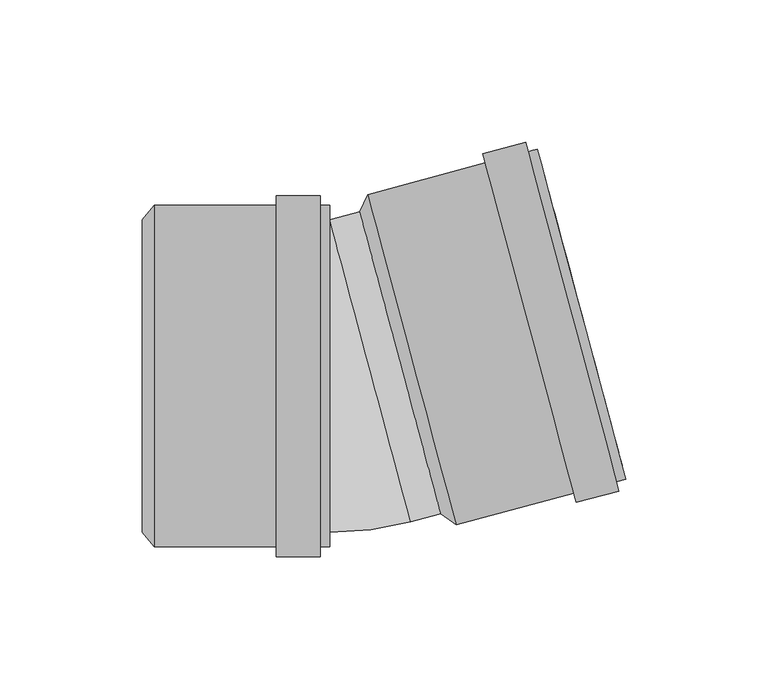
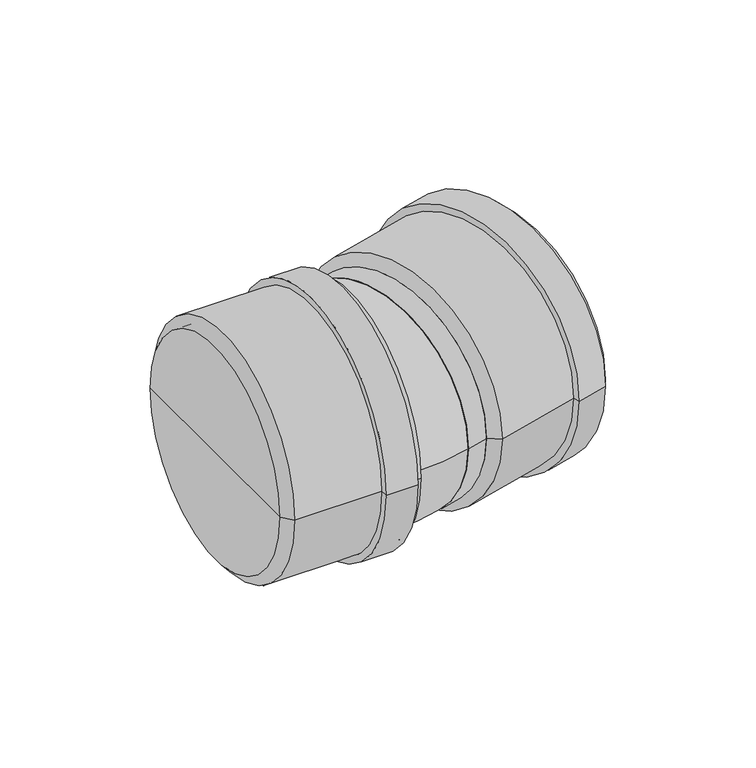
"""IFC4 building model written with IfcOpenShell, lengths in millimetres: pipe fitting geometry, pf_KGB : pf_KGB."""

from ifc_helpers import new_model, si_unit, point, frame, origin, origin_2d, place, context, project, spatial, polyline, circle_curve, ellipse_curve, trimmed, segment, composite_curve, outline, extrude, source, transform, mapped, element, save
from ifc_brep_helpers import plane_surface, cylinder_surface, revolved_surface, advanced_brep


def pipe_fitting_80dcf368(model_context):
    return source(origin(), model_context, "Body", "SolidModel", [
        advanced_brep(
        [(31.8148975, -48.4154138, 0.0), (3.3448026, 57.8364271, 0.0), (6.0817139, 63.8496888, 0.0), (37.1917631, -52.2545955, 0.0), (17.57985, 4.7105066, 0.0), (96.8859792, -36.2595786, 0.0), (65.77593, 79.8447058, 0.0), (67.0959071, 74.918484, 0.0), (95.5660021, -31.3333568, 0.0), (62.4917822, 78.964721, 0.0), (93.6018314, -37.1395633, 0.0), (61.6117974, 82.2488688, 0.0), (94.4818161, -40.4237111, 0.0), (46.6399471, 78.2371736, 0.0), (79.5099658, -44.4354063, 0.0), (47.5199318, 74.9530258, 0.0), (78.6299811, -41.1512585, 0.0), (35.871786, -47.3283738, 0.0), (7.401691, 58.9234671, 0.0), (21.6367385, 5.7975466, 0.0)],
        [
            (0, 1, circle_curve(frame((17.57985, 4.7105066, 0.0), z_axis=(0.9659258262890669, 0.25881904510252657, 0.0), x_axis=(-0.2588190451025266, 0.9659258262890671, 0.0)), 55.0)),
            (1, 2),
            (2, 3, circle_curve(frame((21.6367385, 5.7975466, 0.0), z_axis=(-0.9659258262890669, -0.25881904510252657, 0.0), x_axis=(-0.2588190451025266, 0.9659258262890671, 0.0)), 60.1)),
            (3, 0),
            (1, 0, circle_curve(frame((17.57985, 4.7105066, 0.0), z_axis=(0.9659258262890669, 0.25881904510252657, 0.0), x_axis=(-0.2588190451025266, 0.9659258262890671, 0.0)), 55.0)),
            (3, 2, circle_curve(frame((21.6367385, 5.7975466, 0.0), z_axis=(-0.9659258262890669, -0.25881904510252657, 0.0), x_axis=(-0.2588190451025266, 0.9659258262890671, 0.0)), 60.1)),
            (4, 1),
            (0, 4),
            (5, 6, circle_curve(frame((81.3309546, 21.7925636, 0.0), z_axis=(0.9659258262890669, 0.25881904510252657, 0.0), x_axis=(-0.2588190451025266, 0.9659258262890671, 0.0)), 60.1)),
            (6, 7),
            (7, 8, circle_curve(frame((81.3309546, 21.7925636, 0.0), z_axis=(-0.9659258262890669, -0.25881904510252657, 0.0), x_axis=(-0.2588190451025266, 0.9659258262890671, 0.0)), 55.0)),
            (8, 5),
            (9, 10, circle_curve(frame((78.0468068, 20.9125788, 0.0), z_axis=(0.9659258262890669, 0.25881904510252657, 0.0), x_axis=(-0.2588190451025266, 0.9659258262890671, 0.0)), 60.1)),
            (10, 5),
            (5, 6, circle_curve(frame((81.3309546, 21.7925636, 0.0), z_axis=(-0.9659258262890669, -0.25881904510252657, 0.0), x_axis=(-0.2588190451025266, 0.9659258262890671, 0.0)), 60.1)),
            (6, 9),
            (11, 12, circle_curve(frame((78.0468068, 20.9125788, 0.0), z_axis=(0.9659258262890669, 0.25881904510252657, 0.0), x_axis=(-0.2588190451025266, 0.9659258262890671, 0.0)), 63.5)),
            (12, 10),
            (9, 11),
            (13, 14, circle_curve(frame((63.0749565, 16.9008836, 0.0), z_axis=(0.9659258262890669, 0.25881904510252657, 0.0), x_axis=(-0.2588190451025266, 0.9659258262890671, 0.0)), 63.5)),
            (14, 12),
            (11, 13),
            (15, 16, circle_curve(frame((63.0749565, 16.9008836, 0.0), z_axis=(0.9659258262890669, 0.25881904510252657, 0.0), x_axis=(-0.2588190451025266, 0.9659258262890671, 0.0)), 60.1)),
            (16, 14),
            (13, 15),
            (8, 7, circle_curve(frame((81.3309546, 21.7925636, 0.0), z_axis=(-0.9659258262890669, -0.25881904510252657, 0.0), x_axis=(-0.2588190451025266, 0.9659258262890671, 0.0)), 55.0)),
            (10, 9, circle_curve(frame((78.0468068, 20.9125788, 0.0), z_axis=(0.9659258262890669, 0.25881904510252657, 0.0), x_axis=(-0.2588190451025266, 0.9659258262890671, 0.0)), 60.1)),
            (12, 11, circle_curve(frame((78.0468068, 20.9125788, 0.0), z_axis=(0.9659258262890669, 0.25881904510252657, 0.0), x_axis=(-0.2588190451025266, 0.9659258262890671, 0.0)), 63.5)),
            (14, 13, circle_curve(frame((63.0749565, 16.9008836, 0.0), z_axis=(0.9659258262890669, 0.25881904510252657, 0.0), x_axis=(-0.2588190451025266, 0.9659258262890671, 0.0)), 63.5)),
            (16, 15, circle_curve(frame((63.0749565, 16.9008836, 0.0), z_axis=(0.9659258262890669, 0.25881904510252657, 0.0), x_axis=(-0.2588190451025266, 0.9659258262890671, 0.0)), 60.1)),
            (2, 15),
            (16, 3),
            (17, 18, circle_curve(frame((21.6367385, 5.7975466, 0.0), z_axis=(0.9659258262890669, 0.25881904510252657, 0.0), x_axis=(-0.2588190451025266, 0.9659258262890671, 0.0)), 55.0)),
            (18, 19),
            (19, 17),
            (18, 17, circle_curve(frame((21.6367385, 5.7975466, 0.0), z_axis=(0.9659258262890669, 0.25881904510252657, 0.0), x_axis=(-0.2588190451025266, 0.9659258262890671, 0.0)), 55.0)),
            (7, 18),
            (17, 8),
        ],
        [
            revolved_surface(polyline([(6.0817139, 63.8496888, 0.0), (3.3448026, 57.8364271, 0.0)]), (17.57985, 4.7105066, 0.0), (-0.9659258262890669, -0.25881904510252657, 0.0)),
            plane_surface(frame((17.57985, 4.7105066, 0.0), z_axis=(-0.9659258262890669, -0.25881904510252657, 0.0), x_axis=(-0.25881904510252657, 0.9659258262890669, 0.0))),
            plane_surface(frame((81.3309546, 21.7925636, 0.0), z_axis=(0.9659258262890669, 0.25881904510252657, 0.0), x_axis=(-0.25881904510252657, 0.9659258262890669, 0.0))),
            cylinder_surface(frame((17.57985, 4.7105066, 0.0), z_axis=(-0.9659258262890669, -0.25881904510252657, 0.0), x_axis=(-0.2588190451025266, 0.9659258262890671, 0.0)), 60.1),
            plane_surface(frame((78.0468068, 20.9125788, 0.0), z_axis=(0.9659258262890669, 0.25881904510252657, 0.0), x_axis=(-0.25881904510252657, 0.9659258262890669, 0.0))),
            cylinder_surface(frame((17.57985, 4.7105066, 0.0), z_axis=(-0.9659258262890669, -0.25881904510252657, 0.0), x_axis=(-0.2588190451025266, 0.9659258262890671, 0.0)), 63.5),
            plane_surface(frame((63.0749565, 16.9008836, 0.0), z_axis=(-0.9659258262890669, -0.25881904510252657, 0.0), x_axis=(-0.25881904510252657, 0.9659258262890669, 0.0))),
            plane_surface(frame((21.6367385, 5.7975466, 0.0), z_axis=(0.9659258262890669, 0.25881904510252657, 0.0), x_axis=(-0.25881904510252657, 0.9659258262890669, 0.0))),
            revolved_surface(polyline([(7.401691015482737, 58.923467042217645, 0.0), (67.09590715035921, 74.91848404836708, 0.0)]), (17.57985, 4.7105066, 0.0), (-0.9659258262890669, -0.25881904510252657, 0.0)),
        ],
        [
            (0, [[1, 2, 3, 4]]),
            (0, [[5, -4, 6, -2]]),
            (1, [[7, -1, 8]]),
            (1, [[-8, -5, -7]]),
            (2, [[9, 10, 11, 12]]),
            (3, [[13, 14, 15, 16]]),
            (4, [[17, 18, -13, 19]]),
            (5, [[20, 21, -17, 22]]),
            (6, [[23, 24, -20, 25]]),
            (2, [[-15, -12, 26, -10]]),
            (3, [[27, -16, -9, -14]]),
            (4, [[28, -19, -27, -18]]),
            (5, [[29, -22, -28, -21]]),
            (6, [[30, -25, -29, -24]]),
            (3, [[-3, 31, -30, 32]]),
            (3, [[-6, -32, -23, -31]]),
            (7, [[33, 34, 35]]),
            (7, [[36, -35, -34]]),
            (8, [[-11, 37, -33, 38]]),
            (8, [[-26, -38, -36, -37]]),
        ],
    ),
        advanced_brep(
        [(-73.2, -55.0, 0.0), (-73.2, 55.0, 0.0), (-69.0, 60.1, 0.0), (-69.0, -60.1, 0.0), (-73.2, 0.0, 0.0), (-7.2, -60.1, 0.0), (-7.2, 60.1, 0.0), (-7.2, 55.0, 0.0), (-7.2, -55.0, 0.0), (-10.6, 60.1, 0.0), (-10.6, -60.1, 0.0), (-10.6, 63.5, 0.0), (-10.6, -63.5, 0.0), (-26.1, 63.5, 0.0), (-26.1, -63.5, 0.0), (-26.1, 60.1, 0.0), (-26.1, -60.1, 0.0), (-69.0, -55.0, 0.0), (-69.0, 55.0, 0.0), (-69.0, 0.0, 0.0)],
        [
            (0, 1, circle_curve(frame((-73.2, 0.0, 0.0), z_axis=(1.0, 0.0, 0.0), x_axis=(0.0, 1.0, 0.0)), 55.0)),
            (1, 2),
            (2, 3, circle_curve(frame((-69.0, 0.0, 0.0), z_axis=(-1.0, 0.0, 0.0), x_axis=(0.0, 1.0, 0.0)), 60.1)),
            (3, 0),
            (1, 0, circle_curve(frame((-73.2, 0.0, 0.0), z_axis=(1.0, 0.0, 0.0), x_axis=(0.0, 1.0, 0.0)), 55.0)),
            (3, 2, circle_curve(frame((-69.0, 0.0, 0.0), z_axis=(-1.0, 0.0, 0.0), x_axis=(0.0, 1.0, 0.0)), 60.1)),
            (4, 1),
            (0, 4),
            (5, 6, circle_curve(frame((-7.2, 0.0, 0.0), z_axis=(1.0, 0.0, 0.0), x_axis=(0.0, 1.0, 0.0)), 60.1)),
            (6, 7),
            (7, 8, circle_curve(frame((-7.2, 0.0, 0.0), z_axis=(-1.0, 0.0, 0.0), x_axis=(0.0, 1.0, 0.0)), 55.0)),
            (8, 5),
            (9, 10, circle_curve(frame((-10.6, 0.0, 0.0), z_axis=(1.0, 0.0, 0.0), x_axis=(0.0, 1.0, 0.0)), 60.1)),
            (10, 5),
            (5, 6, circle_curve(frame((-7.2, 0.0, 0.0), z_axis=(-1.0, 0.0, 0.0), x_axis=(0.0, 1.0, 0.0)), 60.1)),
            (6, 9),
            (11, 12, circle_curve(frame((-10.6, 0.0, 0.0), z_axis=(1.0, 0.0, 0.0), x_axis=(0.0, 1.0, 0.0)), 63.5)),
            (12, 10),
            (9, 11),
            (13, 14, circle_curve(frame((-26.1, 0.0, 0.0), z_axis=(1.0, 0.0, 0.0), x_axis=(0.0, 1.0, 0.0)), 63.5)),
            (14, 12),
            (11, 13),
            (15, 16, circle_curve(frame((-26.1, 0.0, 0.0), z_axis=(1.0, 0.0, 0.0), x_axis=(0.0, 1.0, 0.0)), 60.1)),
            (16, 14),
            (13, 15),
            (8, 7, circle_curve(frame((-7.2, 0.0, 0.0), z_axis=(-1.0, 0.0, 0.0), x_axis=(0.0, 1.0, 0.0)), 55.0)),
            (10, 9, circle_curve(frame((-10.6, 0.0, 0.0), z_axis=(1.0, 0.0, 0.0), x_axis=(0.0, 1.0, 0.0)), 60.1)),
            (12, 11, circle_curve(frame((-10.6, 0.0, 0.0), z_axis=(1.0, 0.0, 0.0), x_axis=(0.0, 1.0, 0.0)), 63.5)),
            (14, 13, circle_curve(frame((-26.1, 0.0, 0.0), z_axis=(1.0, 0.0, 0.0), x_axis=(0.0, 1.0, 0.0)), 63.5)),
            (16, 15, circle_curve(frame((-26.1, 0.0, 0.0), z_axis=(1.0, 0.0, 0.0), x_axis=(0.0, 1.0, 0.0)), 60.1)),
            (2, 15),
            (16, 3),
            (17, 18, circle_curve(frame((-69.0, 0.0, 0.0), z_axis=(1.0, 0.0, 0.0), x_axis=(0.0, 1.0, 0.0)), 55.0)),
            (18, 19),
            (19, 17),
            (18, 17, circle_curve(frame((-69.0, 0.0, 0.0), z_axis=(1.0, 0.0, 0.0), x_axis=(0.0, 1.0, 0.0)), 55.0)),
            (7, 18),
            (17, 8),
        ],
        [
            revolved_surface(polyline([(-69.0, 60.1, 0.0), (-73.2, 55.0, 0.0)]), (-73.2, 0.0, 0.0), (-1.0, 0.0, 0.0)),
            plane_surface(frame((-73.2, 0.0, 0.0), z_axis=(-1.0, 0.0, 0.0), x_axis=(0.0, 1.0, 0.0))),
            plane_surface(frame((-7.2, 0.0, 0.0), z_axis=(1.0, 0.0, 0.0), x_axis=(0.0, 1.0, 0.0))),
            cylinder_surface(frame((-73.2, 0.0, 0.0), z_axis=(-1.0, 0.0, 0.0), x_axis=(0.0, 1.0, 0.0)), 60.1),
            plane_surface(frame((-10.6, 0.0, 0.0), z_axis=(1.0, 0.0, 0.0), x_axis=(0.0, 1.0, 0.0))),
            cylinder_surface(frame((-73.2, 0.0, 0.0), z_axis=(-1.0, 0.0, 0.0), x_axis=(0.0, 1.0, 0.0)), 63.5),
            plane_surface(frame((-26.1, 0.0, 0.0), z_axis=(-1.0, 0.0, 0.0), x_axis=(0.0, 1.0, 0.0))),
            plane_surface(frame((-69.0, 0.0, 0.0), z_axis=(1.0, 0.0, 0.0), x_axis=(0.0, 1.0, 0.0))),
            revolved_surface(polyline([(-69.0, 55.0, 0.0), (-7.200000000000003, 55.0, 0.0)]), (-73.2, 0.0, 0.0), (-1.0, 0.0, 0.0)),
        ],
        [
            (0, [[1, 2, 3, 4]]),
            (0, [[5, -4, 6, -2]]),
            (1, [[7, -1, 8]]),
            (1, [[-8, -5, -7]]),
            (2, [[9, 10, 11, 12]]),
            (3, [[13, 14, 15, 16]]),
            (4, [[17, 18, -13, 19]]),
            (5, [[20, 21, -17, 22]]),
            (6, [[23, 24, -20, 25]]),
            (2, [[-15, -12, 26, -10]]),
            (3, [[27, -16, -9, -14]]),
            (4, [[28, -19, -27, -18]]),
            (5, [[29, -22, -28, -21]]),
            (6, [[30, -25, -29, -24]]),
            (3, [[-3, 31, -30, 32]]),
            (3, [[-6, -32, -23, -31]]),
            (7, [[33, 34, 35]]),
            (7, [[36, -35, -34]]),
            (8, [[-11, 37, -33, 38]]),
            (8, [[-26, -38, -36, -37]]),
        ],
    ),
        extrude(outline(composite_curve([segment(trimmed(circle_curve(origin_2d(), 55.0), [point((0.0, -55.0))], [point((0.0, 55.0000001))], False, "CARTESIAN"), True, "CONTINUOUS"), segment(trimmed(circle_curve(origin_2d(), 55.0), [point((0.0, 55.0000001))], [point((0.0, -55.0))], False, "CARTESIAN"), True, "CONTINUOUS")], self_intersect=False)), frame((6.9941601, 1.8740796, 0.0), z_axis=(0.9659258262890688, 0.2588190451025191, 0.0), x_axis=(0.0, 0.0, 1.0)), (0.0, 0.0, 1.0), 10.9591126),
        extrude(outline(composite_curve([segment(trimmed(circle_curve(origin_2d(), 55.0), [point((-55.0, 0.0))], [point((55.0, 0.0))], False, "CARTESIAN"), True, "CONTINUOUS"), segment(trimmed(circle_curve(origin_2d(), 55.0), [point((55.0, 0.0))], [point((-55.0, 0.0))], False, "CARTESIAN"), True, "CONTINUOUS")], self_intersect=False)), frame((-69.0, 0.0, 0.0), z_axis=(1.0, 0.0, 0.0), x_axis=(0.0, 1.0, 0.0)), (0.0, 0.0, 1.0), 61.7591126),
        advanced_brep(
        [(-7.2408874, -55.0, 0.0), (-7.2408874, 55.0, 0.0), (21.2292076, -51.2518409, 0.0)],
        [
            (0, 1, circle_curve(frame((-7.2408874, 0.0, 0.0), z_axis=(-1.0, 0.0, 0.0), x_axis=(0.0, 1.0, 0.0)), 55.0)),
            (1, 0, circle_curve(frame((-7.2408874, 0.0, 0.0), z_axis=(-1.0, 0.0, 0.0), x_axis=(0.0, 1.0, 0.0)), 55.0)),
            (2, 1, circle_curve(frame((6.9941601, 1.8740796, 0.0), z_axis=(0.9659258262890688, 0.25881904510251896, 0.0), x_axis=(-0.25881904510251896, 0.9659258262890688, 0.0)), 55.0)),
            (1, 2, circle_curve(frame((6.9941601, 1.8740796, 0.0), z_axis=(0.9659258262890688, 0.25881904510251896, 0.0), x_axis=(-0.25881904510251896, 0.9659258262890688, 0.0)), 55.0)),
            (2, 0, circle_curve(frame((-7.2408874, 55.0, 0.0), z_axis=(0.0, 0.0, -1.0), x_axis=(0.0, -1.0, 0.0)), 110.0)),
        ],
        [
            plane_surface(frame((-7.2408874, 55.0, -14.8), z_axis=(-1.0, 0.0, 0.0), x_axis=(0.0, -1.0, 0.0))),
            plane_surface(frame((-7.2408874, 55.0, -14.8), z_axis=(0.9659258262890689, 0.258819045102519, 0.0), x_axis=(0.258819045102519, -0.9659258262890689, 0.0))),
            revolved_surface(trimmed(ellipse_curve(frame((-7.2408874, 0.0, 0.0), z_axis=(1.0, 0.0, 0.0), x_axis=(0.0, 1.0, 0.0)), 55.0, 55.0), [point((-7.2408874, -55.0, 0.0))], [point((-7.2408874, 55.0, 0.0))], True, "CARTESIAN"), (-7.2408874, 55.0, -14.8), (0.0, 0.0, -1.0)),
            revolved_surface(trimmed(ellipse_curve(frame((-7.2408874, 0.0, 0.0), z_axis=(1.0, 0.0, 0.0), x_axis=(0.0, 1.0, 0.0)), 55.0, 55.0), [point((-7.2408874, 55.0, 0.0))], [point((-7.2408874, -55.0, 0.0))], True, "CARTESIAN"), (-7.2408874, 55.0, -14.8), (0.0, 0.0, -1.0)),
        ],
        [
            (0, [[1, 2]]),
            (1, [[3, 4]]),
            (2, [[5, -2, -3]]),
            (3, [[-1, -5, -4]]),
        ],
    ),
    ])


if __name__ == "__main__":
    model = new_model("IFC4")
    model_context = context("Model", 3, world=origin())
    ifc_project = project(units=[si_unit("LENGTHUNIT", "METRE", prefix="MILLI")], contexts=[model_context])
    site = spatial("IfcSite", under=ifc_project)
    building = spatial("IfcBuilding", under=site)
    placement = place(None, origin())
    pipe_fitting_shape = pipe_fitting_80dcf368(model_context)
    element("IfcPipeFitting", 1, ObjectType="pf_KGB : pf_KGB", at=placement, inside=building, context=model_context, shape_type="MappedRepresentation", body=[
        mapped(pipe_fitting_shape, transform((0.0, 0.0, 0.0), x_axis=(1.0, 0.0, 0.0), y_axis=(0.0, 1.0, 0.0), z_axis=(0.0, 0.0, 1.0))),
    ])
    save(model, "model.ifc")
